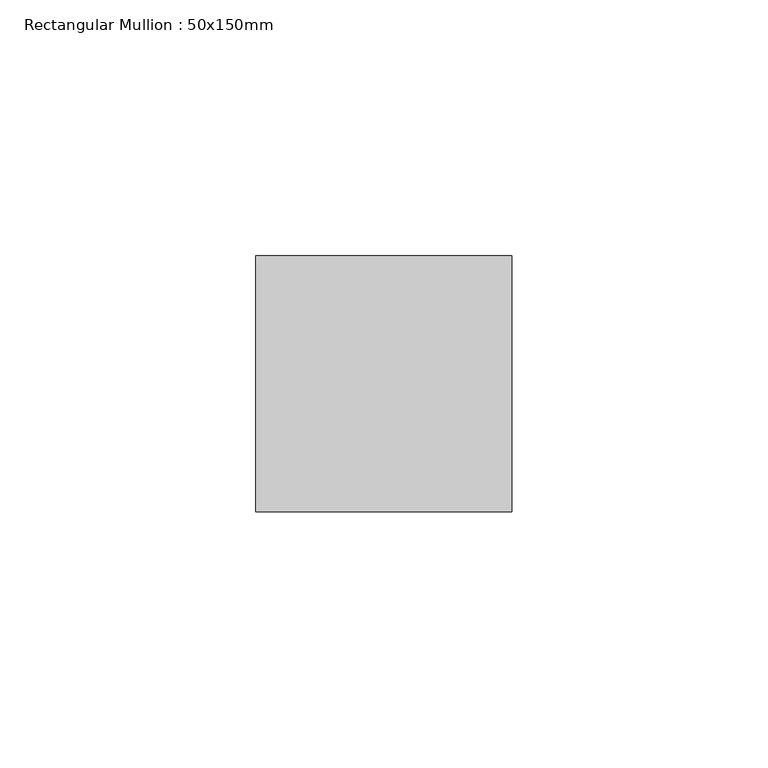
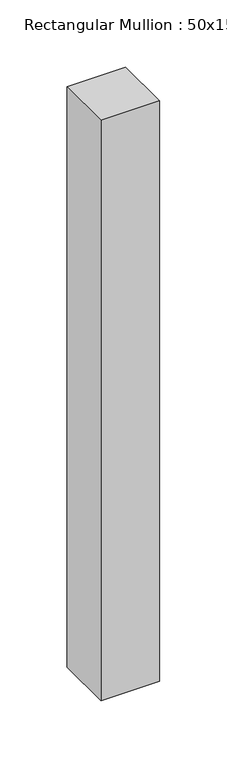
"""IFC4 building model written with IfcOpenShell, lengths in millimetres: member geometry, Rectangular Mullion : 50x150mm."""

from ifc_helpers import new_model, si_unit, frame, origin, place, context, project, spatial, polyline, outline, extrude, source, transform, mapped, element, save


def rectangular_mullion_50x150mm_42de14cf(model_context):
    return source(origin(), model_context, "Body", "SweptSolid", [
        extrude(outline(polyline([(0.0, 25.0), (0.0, -25.0), (-50.0, -25.0), (-50.0, 25.0), (0.0, 25.0)])), frame((0.0, 0.0, -525.0), z_axis=(0.0, 0.0, 1.0), x_axis=(1.0, 0.0, 0.0)), (0.0, 0.0, 1.0), 525.0),
    ])


if __name__ == "__main__":
    model = new_model("IFC4")
    model_context = context("Model", 3, world=origin())
    ifc_project = project(units=[si_unit("LENGTHUNIT", "METRE", prefix="MILLI")], contexts=[model_context])
    site = spatial("IfcSite", under=ifc_project)
    building = spatial("IfcBuilding", under=site)
    placement = place(None, origin())
    rectangular_mullion_50x150mm_shape = rectangular_mullion_50x150mm_42de14cf(model_context)
    element("IfcMember", 1, ObjectType="Rectangular Mullion : 50x150mm", at=placement, inside=building, context=model_context, shape_type="MappedRepresentation", body=[
        mapped(rectangular_mullion_50x150mm_shape, transform((0.0, 0.0, 0.0), x_axis=(1.0, 0.0, 0.0), y_axis=(0.0, 1.0, 0.0), z_axis=(0.0, 0.0, 1.0))),
    ])
    save(model, "model.ifc")
